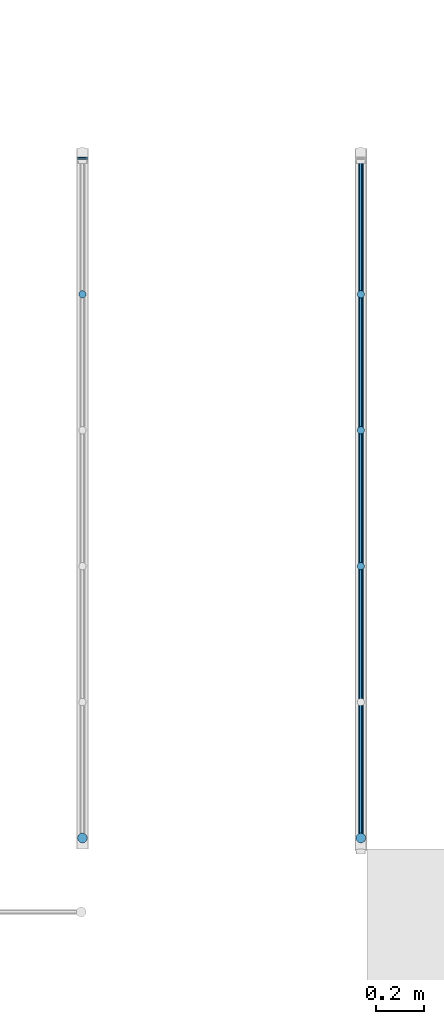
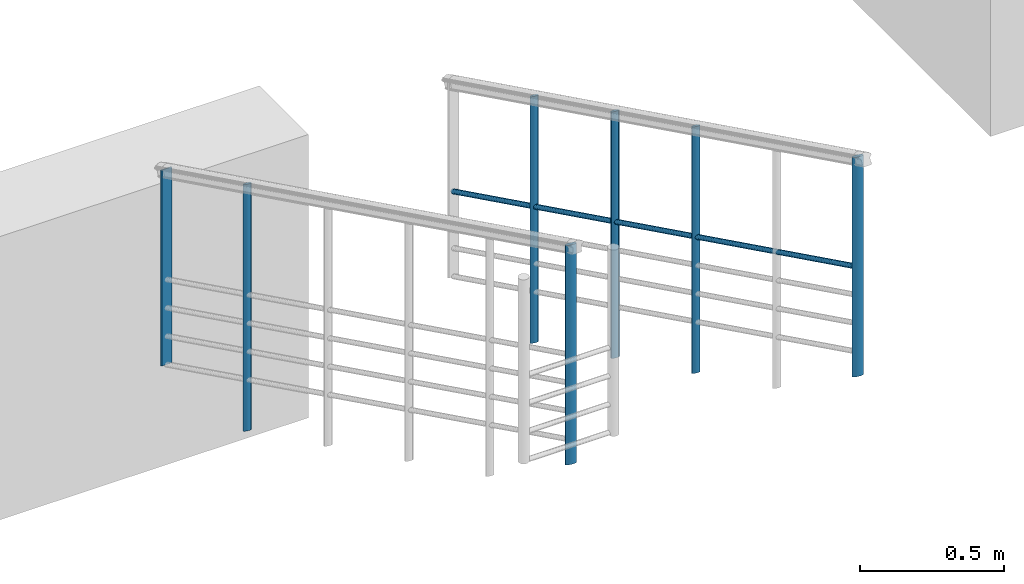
# One storey, part 5 of 16: 8 members, 2 elements without a shape of their own.
"""IFC2X3 building model written with IfcOpenShell, lengths in millimetres."""

from ifc_helpers import new_model, entity, si_unit, converted_unit, derived_unit, money_unit, direction, frame, origin_with_axes, place, context, subcontext, project, spatial, faceted_brep, source, transform, mapped, material, type_object, element, aggregate, save


model = new_model("IFC2X3")

# Units and contexts
model_context = context("Model", 3, precision=0.01, world=origin_with_axes(), true_north=direction((0.0, 1.0)))
body_context = subcontext(model_context, "Body", "Model", "MODEL_VIEW")
ifc_project = project(units=[si_unit("LENGTHUNIT", "METRE", prefix="MILLI"), si_unit("AREAUNIT", "SQUARE_METRE"), si_unit("VOLUMEUNIT", "CUBIC_METRE"), converted_unit("PLANEANGLEUNIT", "DEGREE", entity("IfcPlaneAngleMeasure", 0.0174532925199), si_unit("PLANEANGLEUNIT", "RADIAN"), dimensions=[0, 0, 0, 0, 0, 0, 0]), si_unit("SOLIDANGLEUNIT", "STERADIAN"), money_unit("EUR"), converted_unit("TIMEUNIT", "Year", entity("IfcTimeMeasure", 31556926.0), si_unit("TIMEUNIT", "SECOND"), dimensions=[0, 0, 1, 0, 0, 0, 0]), si_unit("MASSUNIT", "GRAM", prefix="KILO"), si_unit("THERMODYNAMICTEMPERATUREUNIT", "DEGREE_CELSIUS"), si_unit("LUMINOUSINTENSITYUNIT", "LUMEN"), si_unit("ENERGYUNIT", "JOULE", prefix="MEGA"), derived_unit("THERMALCONDUCTANCEUNIT", [(si_unit("POWERUNIT", "WATT"), 1), (si_unit("LENGTHUNIT", "METRE"), -1), (si_unit("THERMODYNAMICTEMPERATUREUNIT", "KELVIN"), -1)]), derived_unit("SPECIFICHEATCAPACITYUNIT", [(si_unit("ENERGYUNIT", "JOULE"), 1), (si_unit("MASSUNIT", "GRAM", prefix="KILO"), -1), (si_unit("THERMODYNAMICTEMPERATUREUNIT", "KELVIN"), -1)]), derived_unit("MASSDENSITYUNIT", [(si_unit("MASSUNIT", "GRAM", prefix="KILO"), 1), (si_unit("VOLUMEUNIT", "CUBIC_METRE"), -1)])], contexts=[model_context])

# Site, building, storey
site_placement = place(None, origin_with_axes())
site = spatial("IfcSite", under=ifc_project, at=site_placement, Name="Paldiski mnt 245/1, Tallinn, Harjumaa", CompositionType="COMPLEX")
building_placement = place(site_placement, origin_with_axes())
building = spatial("IfcBuilding", under=site, at=building_placement, Name="RKAS Hoone üldnimetus (kasutust iseloomustav) -> IFC Project Manager -> SOLIBRI", CompositionType="ELEMENT")
storey_placement = place(building_placement, frame((0.0, 0.0, -1200.0), z_axis=(0.0, 0.0, 1.0), x_axis=(1.0, 0.0, 0.0)))
storey = spatial("IfcBuildingStorey", under=building, at=storey_placement, Name="Vundament", CompositionType="ELEMENT", Elevation=-1200.0)

# Railing, member
railing_type = type_object("IfcRailingType", Name="Railing Type", PredefinedType="NOTDEFINED")
railing_1_placement = place(storey_placement, frame((-45764.8098199, -7778.11378171, 1483.63636364), z_axis=(0.0, 0.0, 1.0), x_axis=(-0.773149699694, -0.634223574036, 0.0)))
railing_1 = element("IfcRailing", 1, at=railing_1_placement, inside=storey, type_object=railing_type, Name="PIIRE", PredefinedType="NOTDEFINED")
ifc_material_1 = material(Name="ET-06_Teras - Konstruktsioon")
member_type_1 = type_object("IfcMemberType", Name="IfcMember", PredefinedType="POST")
shared_shape_1 = source(origin_with_axes(), body_context, "Body", "Brep", [
    faceted_brep([(20.0, 5.0, 2.46293441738), (-20.0, 5.0, 2.46293441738), (-20.0, 5.0, 832.462934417), (20.0, 5.0, 832.462934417), (20.0, -5.0, -2.46293441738), (-20.0, -5.0, -2.46293441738), (15.5, 0.5, 0.246293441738), (-15.5, 0.5, 0.246293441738), (-15.5, -0.5, -0.246293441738), (15.5, -0.5, -0.246293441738), (-20.0, -5.0, 827.537065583), (20.0, -5.0, 827.537065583), (15.5, 0.499999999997, 830.246293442), (15.5, -0.500000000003, 829.753706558), (-15.5, -0.500000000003, 829.753706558), (-15.5, 0.499999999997, 830.246293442)], [[[0, 1, 2, 3]], [[0, 4, 5, 1], [6, 7, 8, 9]], [[1, 5, 10, 2]], [[3, 2, 10, 11], [12, 13, 14, 15]], [[4, 0, 3, 11]], [[5, 4, 11, 10]], [[7, 6, 12, 15]], [[8, 7, 15, 14]], [[9, 8, 14, 13]], [[6, 9, 13, 12]]]),
])
member_1_placement = place(railing_1_placement, frame((0.0, 0.0, 0.0), z_axis=(0.0, 0.0, 1.0), x_axis=(-0.773149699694, 0.634223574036, 0.0)))
member_1 = element("IfcMember", 2, at=member_1_placement, type_object=member_type_1, material=ifc_material_1, Name="PIIRDE POST - 001", ObjectType="POST", context=body_context, shape_type="MappedRepresentation", body=[
    mapped(shared_shape_1, transform((0.0, 0.0, 0.0), x_axis=(-1.0, 0.0, 0.0), y_axis=(0.0, -1.0, 0.0), z_axis=(0.0, 0.0, 1.0))),
])

railing_2_placement = place(storey_placement, frame((-44615.0, -7778.11378171, 1453.63636364), z_axis=(0.0, 0.0, 1.0), x_axis=(-0.773149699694, -0.634223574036, 0.0)))
railing_2 = element("IfcRailing", 3, at=railing_2_placement, inside=storey, type_object=railing_type, Name="PIIRE", PredefinedType="NOTDEFINED")
shared_shape_2 = source(origin_with_axes(), body_context, "Body", "Brep", [
    faceted_brep([(0.0, -20.0, -9.85173766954), (3.47296355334, -19.6961550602, -9.7020676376), (3.47296355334, -19.6961550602, 920.297932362), (0.0, -20.0, 920.14826233), (-3.47296355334, -19.6961550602, -9.7020676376), (-6.84040286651, -18.7938524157, -9.25760518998), (-10.0, -17.3205080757, -8.53185509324), (-12.8557521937, -15.3208888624, -7.54686889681), (-15.3208888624, -12.8557521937, -6.33257490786), (-17.3205080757, -10.0, -4.92586883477), (-18.7938524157, -6.84040286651, -3.36949272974), (-19.6961550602, -3.47296355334, -1.71073629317), (-20.0, 0.0, 0.0), (-19.6961550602, 3.47296355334, 1.71073629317), (-18.7938524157, 6.84040286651, 3.36949272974), (-17.3205080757, 10.0, 4.92586883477), (-15.3208888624, 12.8557521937, 6.33257490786), (-12.8557521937, 15.3208888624, 7.54686889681), (-10.0, 17.3205080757, 8.53185509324), (-6.84040286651, 18.7938524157, 9.25760518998), (-3.47296355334, 19.6961550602, 9.7020676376), (0.0, 20.0, 9.85173766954), (3.47296355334, 19.6961550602, 9.7020676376), (6.84040286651, 18.7938524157, 9.25760518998), (10.0, 17.3205080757, 8.53185509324), (12.8557521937, 15.3208888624, 7.54686889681), (15.3208888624, 12.8557521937, 6.33257490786), (17.3205080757, 10.0, 4.92586883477), (18.7938524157, 6.84040286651, 3.36949272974), (19.6961550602, 3.47296355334, 1.71073629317), (20.0, 0.0, 0.0), (19.6961550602, -3.47296355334, -1.71073629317), (18.7938524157, -6.84040286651, -3.36949272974), (17.3205080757, -10.0, -4.92586883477), (15.3208888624, -12.8557521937, -6.33257490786), (12.8557521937, -15.3208888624, -7.54686889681), (10.0, -17.3205080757, -8.53185509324), (6.84040286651, -18.7938524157, -9.25760518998), (6.84040286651, -18.7938524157, 920.74239481), (10.0, -17.3205080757, 921.468144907), (12.8557521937, -15.3208888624, 922.453131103), (15.3208888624, -12.8557521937, 923.667425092), (17.3205080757, -10.0, 925.074131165), (18.7938524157, -6.84040286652, 926.63050727), (19.6961550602, -3.47296355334, 928.289263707), (20.0, 0.0, 930.0), (19.6961550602, 3.47296355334, 931.710736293), (18.7938524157, 6.84040286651, 933.36949273), (17.3205080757, 10.0, 934.925868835), (15.3208888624, 12.8557521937, 936.332574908), (12.8557521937, 15.3208888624, 937.546868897), (10.0, 17.3205080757, 938.531855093), (6.84040286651, 18.7938524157, 939.25760519), (3.47296355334, 19.6961550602, 939.702067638), (0.0, 20.0, 939.85173767), (-3.47296355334, 19.6961550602, 939.702067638), (-6.84040286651, 18.7938524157, 939.25760519), (-10.0, 17.3205080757, 938.531855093), (-12.8557521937, 15.3208888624, 937.546868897), (-15.3208888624, 12.8557521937, 936.332574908), (-17.3205080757, 10.0, 934.925868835), (-18.7938524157, 6.84040286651, 933.36949273), (-19.6961550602, 3.47296355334, 931.710736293), (-20.0, 0.0, 930.0), (-19.6961550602, -3.47296355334, 928.289263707), (-18.7938524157, -6.84040286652, 926.63050727), (-17.3205080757, -10.0, 925.074131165), (-15.3208888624, -12.8557521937, 923.667425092), (-12.8557521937, -15.3208888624, 922.453131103), (-10.0, -17.3205080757, 921.468144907), (-6.84040286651, -18.7938524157, 920.74239481), (-3.47296355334, -19.6961550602, 920.297932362)], [[[0, 1, 2, 3]], [[0, 4, 5, 6, 7, 8, 9, 10, 11, 12, 13, 14, 15, 16, 17, 18, 19, 20, 21, 22, 23, 24, 25, 26, 27, 28, 29, 30, 31, 32, 33, 34, 35, 36, 37, 1]], [[1, 37, 38, 2]], [[3, 2, 38, 39, 40, 41, 42, 43, 44, 45, 46, 47, 48, 49, 50, 51, 52, 53, 54, 55, 56, 57, 58, 59, 60, 61, 62, 63, 64, 65, 66, 67, 68, 69, 70, 71]], [[4, 0, 3, 71]], [[5, 4, 71, 70]], [[6, 5, 70, 69]], [[7, 6, 69, 68]], [[8, 7, 68, 67]], [[9, 8, 67, 66]], [[10, 9, 66, 65]], [[11, 10, 65, 64]], [[12, 11, 64, 63]], [[13, 12, 63, 62]], [[14, 13, 62, 61]], [[15, 14, 61, 60]], [[16, 15, 60, 59]], [[17, 16, 59, 58]], [[18, 17, 58, 57]], [[19, 18, 57, 56]], [[20, 19, 56, 55]], [[21, 20, 55, 54]], [[22, 21, 54, 53]], [[23, 22, 53, 52]], [[24, 23, 52, 51]], [[25, 24, 51, 50]], [[26, 25, 50, 49]], [[27, 26, 49, 48]], [[28, 27, 48, 47]], [[29, 28, 47, 46]], [[30, 29, 46, 45]], [[31, 30, 45, 44]], [[32, 31, 44, 43]], [[33, 32, 43, 42]], [[34, 33, 42, 41]], [[35, 34, 41, 40]], [[36, 35, 40, 39]], [[37, 36, 39, 38]]]),
])
member_2_placement = place(railing_2_placement, frame((1780.31178304, 2170.28754018, 1282.72727273), z_axis=(0.0, 0.0, 1.0), x_axis=(-0.773149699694, 0.634223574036, 0.0)))
member_2 = element("IfcMember", 4, at=member_2_placement, type_object=member_type_1, material=ifc_material_1, Name="PIIRDE POST - 001", ObjectType="POST", context=body_context, shape_type="MappedRepresentation", body=[
    mapped(shared_shape_2, transform((0.0, 0.0, 0.0), x_axis=(-1.0, 0.0, 0.0), y_axis=(0.0, -1.0, 0.0), z_axis=(0.0, 0.0, 1.0))),
])

# Member
member_3_placement = place(railing_1_placement, frame((1780.31178304, 2170.28754018, 1282.72727273), z_axis=(0.0, 0.0, 1.0), x_axis=(-0.773149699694, 0.634223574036, 0.0)))
member_3 = element("IfcMember", 5, at=member_3_placement, type_object=member_type_1, material=ifc_material_1, Name="PIIRDE POST - 001", ObjectType="POST", context=body_context, shape_type="MappedRepresentation", body=[
    mapped(shared_shape_2, transform((0.0, 0.0, 0.0), x_axis=(-1.0, 0.0, 0.0), y_axis=(0.0, -1.0, 0.0), z_axis=(0.0, 0.0, 1.0))),
])

ifc_material_2 = material(Name="ET-07_Teras - Roostevaba")
member_type_2 = type_object("IfcMemberType", Name="IfcMember", PredefinedType="USERDEFINED")
shared_shape_3 = source(origin_with_axes(), body_context, "Body", "Brep", [
    faceted_brep([(10.0, 0.0, 460.0), (9.84807753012, 0.767326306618, 461.55774815), (9.84807753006, -2806.30553558, 1844.28502088), (9.99999999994, -2807.07286188, 1842.72727273), (9.84807753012, -0.767326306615, 458.44225185), (9.39692620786, -1.51133779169, 456.931835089), (8.66025403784, -2.20942804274, 455.514642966), (7.66044443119, -2.84038594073, 454.233736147), (6.42787609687, -3.38504014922, 453.128034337), (5.0, -3.82684162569, 452.231133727), (3.42020143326, -4.15236645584, 451.570286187), (1.73648177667, -4.35172373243, 451.165571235), (0.0, -4.41885608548, 451.029285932), (-1.73648177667, -4.35172373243, 451.165571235), (-3.42020143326, -4.15236645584, 451.570286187), (-5.0, -3.82684162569, 452.231133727), (-6.42787609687, -3.38504014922, 453.128034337), (-7.66044443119, -2.84038594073, 454.233736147), (-8.66025403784, -2.20942804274, 455.514642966), (-9.39692620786, -1.51133779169, 456.931835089), (-9.84807753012, -0.767326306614, 458.44225185), (-10.0, 0.0, 460.0), (-9.84807753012, 0.767326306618, 461.55774815), (-9.39692620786, 1.51133779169, 463.068164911), (-8.66025403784, 2.20942804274, 464.485357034), (-7.66044443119, 2.84038594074, 465.766263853), (-6.42787609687, 3.38504014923, 466.871965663), (-5.0, 3.8268416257, 467.768866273), (-3.42020143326, 4.15236645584, 468.429713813), (-1.73648177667, 4.35172373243, 468.834428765), (0.0, 4.41885608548, 468.970714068), (1.73648177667, 4.35172373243, 468.834428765), (3.42020143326, 4.15236645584, 468.429713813), (5.0, 3.8268416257, 467.768866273), (6.42787609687, 3.38504014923, 466.871965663), (7.66044443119, 2.84038594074, 465.766263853), (8.66025403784, 2.20942804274, 464.485357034), (9.39692620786, 1.51133779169, 463.068164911), (5.5, 0.0, 460.0), (5.41644264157, 0.422029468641, 460.856761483), (5.16830941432, 0.831235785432, 461.687490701), (4.76313972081, 1.21518542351, 462.466946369), (4.21324443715, 1.56221226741, 463.171445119), (3.53533185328, 1.86177208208, 463.779581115), (2.75, 2.10476289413, 464.27287645), (1.88111078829, 2.28380155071, 464.636342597), (0.955064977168, 2.39344805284, 464.858935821), (0.0, 2.43037084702, 464.933892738), (-0.955064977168, 2.39344805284, 464.858935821), (-1.88111078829, 2.28380155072, 464.636342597), (-2.75, 2.10476289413, 464.27287645), (-3.53533185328, 1.86177208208, 463.779581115), (-4.21324443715, 1.56221226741, 463.171445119), (-4.76313972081, 1.21518542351, 462.466946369), (-5.16830941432, 0.831235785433, 461.687490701), (-5.41644264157, 0.422029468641, 460.856761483), (-5.5, 0.0, 460.0), (-5.41644264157, -0.422029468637, 459.143238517), (-5.16830941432, -0.831235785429, 458.312509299), (-4.76313972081, -1.21518542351, 457.533053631), (-4.21324443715, -1.5622122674, 456.828554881), (-3.53533185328, -1.86177208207, 456.220418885), (-2.75, -2.10476289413, 455.72712355), (-1.88111078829, -2.28380155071, 455.363657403), (-0.955064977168, -2.39344805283, 455.141064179), (0.0, -2.43037084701, 455.066107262), (0.955064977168, -2.39344805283, 455.141064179), (1.88111078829, -2.28380155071, 455.363657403), (2.75, -2.10476289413, 455.72712355), (3.53533185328, -1.86177208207, 456.220418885), (4.21324443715, -1.5622122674, 456.828554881), (4.76313972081, -1.21518542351, 457.533053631), (5.16830941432, -0.831235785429, 458.312509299), (5.41644264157, -0.422029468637, 459.143238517), (9.3969262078, -2805.56152409, 1845.79543764), (8.66025403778, -2804.86343384, 1847.21262976), (7.66044443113, -2804.23247594, 1848.49353658), (6.4278760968, -2803.68782173, 1849.59923839), (4.99999999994, -2803.24602026, 1850.496139), (3.42020143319, -2802.92049543, 1851.15698654), (1.73648177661, -2802.72113815, 1851.56170149), (0.0, -2802.6540058, 1851.6979868), (-1.73648177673, -2802.72113815, 1851.56170149), (-3.42020143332, -2802.92049543, 1851.15698654), (-5.00000000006, -2803.24602026, 1850.496139), (-6.42787609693, -2803.68782173, 1849.59923839), (-7.66044443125, -2804.23247594, 1848.49353658), (-8.66025403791, -2804.86343384, 1847.21262976), (-9.39692620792, -2805.56152409, 1845.79543764), (-9.84807753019, -2806.30553558, 1844.28502088), (-10.0000000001, -2807.07286188, 1842.72727273), (-9.84807753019, -2807.84018819, 1841.16952458), (-9.39692620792, -2808.58419967, 1839.65910782), (-8.66025403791, -2809.28228993, 1838.24191569), (-7.66044443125, -2809.91324782, 1836.96100887), (-6.42787609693, -2810.45790203, 1835.85530706), (-5.00000000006, -2810.89970351, 1834.95840645), (-3.42020143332, -2811.22522834, 1834.29755891), (-1.73648177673, -2811.42458562, 1833.89284396), (0.0, -2811.49171797, 1833.75655866), (1.73648177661, -2811.42458562, 1833.89284396), (3.42020143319, -2811.22522834, 1834.29755891), (4.99999999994, -2810.89970351, 1834.95840645), (6.4278760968, -2810.45790203, 1835.85530706), (7.66044443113, -2809.91324782, 1836.96100887), (8.66025403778, -2809.28228993, 1838.24191569), (9.3969262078, -2808.58419967, 1839.65910782), (9.84807753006, -2807.84018819, 1841.16952458), (5.49999999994, -2807.07286188, 1842.72727273), (5.4164426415, -2807.49489135, 1841.87051124), (5.16830941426, -2807.90409767, 1841.03978203), (4.76313972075, -2808.28804731, 1840.26032636), (4.21324443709, -2808.63507415, 1839.55582761), (3.53533185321, -2808.93463397, 1838.94769161), (2.74999999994, -2809.17762478, 1838.45439628), (1.88111078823, -2809.35666343, 1838.09093013), (0.955064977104, -2809.46630994, 1837.86833691), (0.0, -2809.50323273, 1837.79337999), (-0.955064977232, -2809.46630994, 1837.86833691), (-1.88111078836, -2809.35666343, 1838.09093013), (-2.75000000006, -2809.17762478, 1838.45439628), (-3.53533185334, -2808.93463397, 1838.94769161), (-4.21324443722, -2808.63507415, 1839.55582761), (-4.76313972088, -2808.28804731, 1840.26032636), (-5.16830941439, -2807.90409767, 1841.03978203), (-5.41644264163, -2807.49489135, 1841.87051124), (-5.50000000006, -2807.07286188, 1842.72727273), (-5.41644264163, -2806.65083241, 1843.58403421), (-5.16830941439, -2806.2416261, 1844.41476343), (-4.76313972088, -2805.85767646, 1845.1942191), (-4.21324443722, -2805.51064962, 1845.89871785), (-3.53533185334, -2805.2110898, 1846.50685384), (-2.75000000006, -2804.96809899, 1847.00014918), (-1.88111078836, -2804.78906033, 1847.36361532), (-0.955064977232, -2804.67941383, 1847.58620855), (0.0, -2804.64249104, 1847.66116546), (0.955064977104, -2804.67941383, 1847.58620855), (1.88111078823, -2804.78906033, 1847.36361532), (2.74999999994, -2804.96809899, 1847.00014918), (3.53533185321, -2805.2110898, 1846.50685384), (4.21324443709, -2805.51064962, 1845.89871785), (4.76313972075, -2805.85767646, 1845.1942191), (5.16830941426, -2806.2416261, 1844.41476343), (5.4164426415, -2806.65083241, 1843.58403421)], [[[0, 1, 2, 3]], [[0, 4, 5, 6, 7, 8, 9, 10, 11, 12, 13, 14, 15, 16, 17, 18, 19, 20, 21, 22, 23, 24, 25, 26, 27, 28, 29, 30, 31, 32, 33, 34, 35, 36, 37, 1], [38, 39, 40, 41, 42, 43, 44, 45, 46, 47, 48, 49, 50, 51, 52, 53, 54, 55, 56, 57, 58, 59, 60, 61, 62, 63, 64, 65, 66, 67, 68, 69, 70, 71, 72, 73]], [[1, 37, 74, 2]], [[3, 2, 74, 75, 76, 77, 78, 79, 80, 81, 82, 83, 84, 85, 86, 87, 88, 89, 90, 91, 92, 93, 94, 95, 96, 97, 98, 99, 100, 101, 102, 103, 104, 105, 106, 107], [108, 109, 110, 111, 112, 113, 114, 115, 116, 117, 118, 119, 120, 121, 122, 123, 124, 125, 126, 127, 128, 129, 130, 131, 132, 133, 134, 135, 136, 137, 138, 139, 140, 141, 142, 143]], [[4, 0, 3, 107]], [[5, 4, 107, 106]], [[6, 5, 106, 105]], [[7, 6, 105, 104]], [[8, 7, 104, 103]], [[9, 8, 103, 102]], [[10, 9, 102, 101]], [[11, 10, 101, 100]], [[12, 11, 100, 99]], [[13, 12, 99, 98]], [[14, 13, 98, 97]], [[15, 14, 97, 96]], [[16, 15, 96, 95]], [[17, 16, 95, 94]], [[18, 17, 94, 93]], [[19, 18, 93, 92]], [[20, 19, 92, 91]], [[21, 20, 91, 90]], [[22, 21, 90, 89]], [[23, 22, 89, 88]], [[24, 23, 88, 87]], [[25, 24, 87, 86]], [[26, 25, 86, 85]], [[27, 26, 85, 84]], [[28, 27, 84, 83]], [[29, 28, 83, 82]], [[30, 29, 82, 81]], [[31, 30, 81, 80]], [[32, 31, 80, 79]], [[33, 32, 79, 78]], [[34, 33, 78, 77]], [[35, 34, 77, 76]], [[36, 35, 76, 75]], [[37, 36, 75, 74]], [[39, 38, 108, 143]], [[40, 39, 143, 142]], [[41, 40, 142, 141]], [[42, 41, 141, 140]], [[43, 42, 140, 139]], [[44, 43, 139, 138]], [[45, 44, 138, 137]], [[46, 45, 137, 136]], [[47, 46, 136, 135]], [[48, 47, 135, 134]], [[49, 48, 134, 133]], [[50, 49, 133, 132]], [[51, 50, 132, 131]], [[52, 51, 131, 130]], [[53, 52, 130, 129]], [[54, 53, 129, 128]], [[55, 54, 128, 127]], [[56, 55, 127, 126]], [[57, 56, 126, 125]], [[58, 57, 125, 124]], [[59, 58, 124, 123]], [[60, 59, 123, 122]], [[61, 60, 122, 121]], [[62, 61, 121, 120]], [[63, 62, 120, 119]], [[64, 63, 119, 118]], [[65, 64, 118, 117]], [[66, 65, 117, 116]], [[67, 66, 116, 115]], [[68, 67, 115, 114]], [[69, 68, 114, 113]], [[70, 69, 113, 112]], [[71, 70, 112, 111]], [[72, 71, 111, 110]], [[73, 72, 110, 109]], [[38, 73, 109, 108]]]),
])
member_4_placement = place(railing_2_placement, frame((890.155891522, 1085.14377009, 345.857864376), z_axis=(0.0, 0.0, 1.0), x_axis=(-0.773149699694, 0.634223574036, 0.0)))
member_4 = element("IfcMember", 6, at=member_4_placement, type_object=member_type_2, material=ifc_material_2, Name="Piirde alaosa - 001", ObjectType="Rail", context=body_context, shape_type="MappedRepresentation", body=[
    mapped(shared_shape_3, transform((0.0, 1403.53643094, -445.857864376))),
])

shared_shape_4 = source(origin_with_axes(), body_context, "Body", "Brep", [
    faceted_brep([(0.0, -15.0, -7.38880325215), (2.604722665, -14.7721162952, -7.2765507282), (2.604722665, -14.7721162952, 1037.47253237), (0.0, -15.0, 1037.36027985), (-2.604722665, -14.7721162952, -7.2765507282), (-5.13030214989, -14.0953893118, -6.94320389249), (-7.5, -12.9903810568, -6.39889131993), (-9.6418141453, -11.4906666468, -5.66015167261), (-11.4906666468, -9.6418141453, -4.74943118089), (-12.9903810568, -7.5, -3.69440162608), (-14.0953893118, -5.13030214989, -2.52711954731), (-14.7721162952, -2.604722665, -1.28305221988), (-15.0, 0.0, 0.0), (-14.7721162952, 2.604722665, 1.28305221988), (-14.0953893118, 5.13030214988, 2.52711954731), (-12.9903810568, 7.5, 3.69440162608), (-11.4906666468, 9.6418141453, 4.74943118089), (-9.6418141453, 11.4906666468, 5.66015167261), (-7.5, 12.9903810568, 6.39889131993), (-5.13030214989, 14.0953893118, 6.94320389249), (-2.604722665, 14.7721162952, 7.2765507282), (0.0, 15.0, 7.38880325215), (2.604722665, 14.7721162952, 7.2765507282), (5.13030214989, 14.0953893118, 6.94320389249), (7.5, 12.9903810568, 6.39889131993), (9.6418141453, 11.4906666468, 5.66015167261), (11.4906666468, 9.6418141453, 4.74943118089), (12.9903810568, 7.5, 3.69440162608), (14.0953893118, 5.13030214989, 2.52711954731), (14.7721162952, 2.604722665, 1.28305221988), (15.0, 0.0, 0.0), (14.7721162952, -2.604722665, -1.28305221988), (14.0953893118, -5.13030214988, -2.52711954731), (12.9903810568, -7.5, -3.69440162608), (11.4906666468, -9.6418141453, -4.74943118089), (9.6418141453, -11.4906666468, -5.66015167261), (7.5, -12.9903810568, -6.39889131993), (5.13030214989, -14.0953893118, -6.94320389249), (5.13030214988, -14.0953893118, 1037.80587921), (7.5, -12.9903810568, 1038.35019178), (9.6418141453, -11.4906666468, 1039.08893143), (11.4906666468, -9.6418141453, 1039.99965192), (12.9903810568, -7.5, 1041.05468148), (14.0953893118, -5.13030214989, 1042.22196355), (14.7721162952, -2.60472266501, 1043.46603088), (15.0, 0.0, 1044.7490831), (14.7721162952, 2.604722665, 1046.03213532), (14.0953893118, 5.13030214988, 1047.27620265), (12.9903810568, 7.5, 1048.44348473), (11.4906666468, 9.64181414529, 1049.49851428), (9.6418141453, 11.4906666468, 1050.40923477), (7.5, 12.9903810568, 1051.14797442), (5.13030214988, 14.0953893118, 1051.69228699), (2.604722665, 14.7721162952, 1052.02563383), (0.0, 15.0, 1052.13788635), (-2.604722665, 14.7721162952, 1052.02563383), (-5.13030214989, 14.0953893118, 1051.69228699), (-7.5, 12.9903810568, 1051.14797442), (-9.6418141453, 11.4906666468, 1050.40923477), (-11.4906666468, 9.64181414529, 1049.49851428), (-12.9903810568, 7.5, 1048.44348473), (-14.0953893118, 5.13030214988, 1047.27620265), (-14.7721162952, 2.604722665, 1046.03213532), (-15.0, 0.0, 1044.7490831), (-14.7721162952, -2.60472266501, 1043.46603088), (-14.0953893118, -5.13030214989, 1042.22196355), (-12.9903810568, -7.5, 1041.05468148), (-11.4906666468, -9.6418141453, 1039.99965192), (-9.6418141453, -11.4906666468, 1039.08893143), (-7.5, -12.9903810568, 1038.35019178), (-5.13030214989, -14.0953893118, 1037.80587921), (-2.604722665, -14.7721162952, 1037.47253237)], [[[0, 1, 2, 3]], [[0, 4, 5, 6, 7, 8, 9, 10, 11, 12, 13, 14, 15, 16, 17, 18, 19, 20, 21, 22, 23, 24, 25, 26, 27, 28, 29, 30, 31, 32, 33, 34, 35, 36, 37, 1]], [[1, 37, 38, 2]], [[3, 2, 38, 39, 40, 41, 42, 43, 44, 45, 46, 47, 48, 49, 50, 51, 52, 53, 54, 55, 56, 57, 58, 59, 60, 61, 62, 63, 64, 65, 66, 67, 68, 69, 70, 71]], [[4, 0, 3, 71]], [[5, 4, 71, 70]], [[6, 5, 70, 69]], [[7, 6, 69, 68]], [[8, 7, 68, 67]], [[9, 8, 67, 66]], [[10, 9, 66, 65]], [[11, 10, 65, 64]], [[12, 11, 64, 63]], [[13, 12, 63, 62]], [[14, 13, 62, 61]], [[15, 14, 61, 60]], [[16, 15, 60, 59]], [[17, 16, 59, 58]], [[18, 17, 58, 57]], [[19, 18, 57, 56]], [[20, 19, 56, 55]], [[21, 20, 55, 54]], [[22, 21, 54, 53]], [[23, 22, 53, 52]], [[24, 23, 52, 51]], [[25, 24, 51, 50]], [[26, 25, 50, 49]], [[27, 26, 49, 48]], [[28, 27, 48, 47]], [[29, 28, 47, 46]], [[30, 29, 46, 45]], [[31, 30, 45, 44]], [[32, 31, 44, 43]], [[33, 32, 43, 42]], [[34, 33, 42, 41]], [[35, 34, 41, 40]], [[36, 35, 40, 39]], [[37, 36, 39, 38]]]),
])
member_5_placement = place(railing_2_placement, frame((356.062356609, 434.057508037, 61.7963714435), z_axis=(0.0, 0.0, 1.0), x_axis=(-0.773149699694, 0.634223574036, 0.0)))
member_5 = element("IfcMember", 7, at=member_5_placement, type_object=member_type_1, material=ifc_material_2, Name="Piirde Post - 001", ObjectType="POST", context=body_context, shape_type="MappedRepresentation", body=[
    mapped(shared_shape_4, transform((0.0, 0.0, 0.0), x_axis=(-1.0, 0.0, 0.0), y_axis=(0.0, -1.0, 0.0), z_axis=(0.0, 0.0, 1.0))),
])

member_6_placement = place(railing_2_placement, frame((712.124713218, 868.115016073, 338.341825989), z_axis=(0.0, 0.0, 1.0), x_axis=(-0.773149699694, 0.634223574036, 0.0)))
member_6 = element("IfcMember", 8, at=member_6_placement, type_object=member_type_1, material=ifc_material_2, Name="Piirde Post - 001", ObjectType="POST", context=body_context, shape_type="MappedRepresentation", body=[
    mapped(shared_shape_4, transform((0.0, 0.0, 0.0), x_axis=(-1.0, 0.0, 0.0), y_axis=(0.0, -1.0, 0.0), z_axis=(0.0, 0.0, 1.0))),
])

member_7_placement = place(railing_2_placement, frame((1068.18706983, 1302.17252411, 614.887280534), z_axis=(0.0, 0.0, 1.0), x_axis=(-0.773149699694, 0.634223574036, 0.0)))
member_7 = element("IfcMember", 9, at=member_7_placement, type_object=member_type_1, material=ifc_material_2, Name="Piirde Post - 001", ObjectType="POST", context=body_context, shape_type="MappedRepresentation", body=[
    mapped(shared_shape_4, transform((0.0, 0.0, 0.0), x_axis=(-1.0, 0.0, 0.0), y_axis=(0.0, -1.0, 0.0), z_axis=(0.0, 0.0, 1.0))),
])

aggregate(railing_2, [member_2, member_4, member_5, member_6, member_7])

member_8_placement = place(railing_1_placement, frame((356.062356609, 434.057508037, 61.7963714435), z_axis=(0.0, 0.0, 1.0), x_axis=(-0.773149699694, 0.634223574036, 0.0)))
member_8 = element("IfcMember", 10, at=member_8_placement, type_object=member_type_1, material=ifc_material_2, Name="Piirde Post - 001", ObjectType="POST", context=body_context, shape_type="MappedRepresentation", body=[
    mapped(shared_shape_4, transform((0.0, 0.0, 0.0), x_axis=(-1.0, 0.0, 0.0), y_axis=(0.0, -1.0, 0.0), z_axis=(0.0, 0.0, 1.0))),
])

aggregate(railing_1, [member_1, member_3, member_8])

save(model, "model.ifc")
